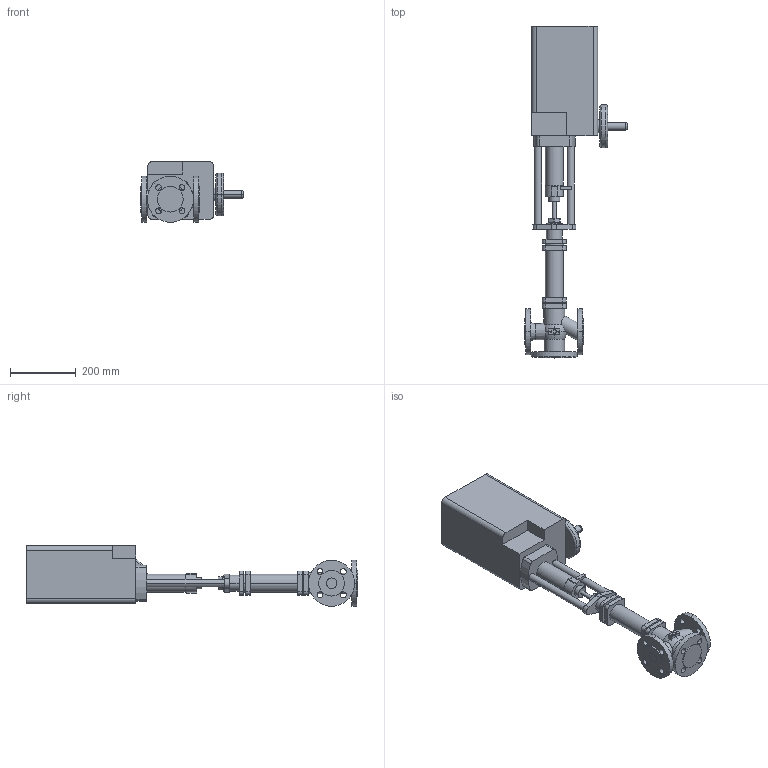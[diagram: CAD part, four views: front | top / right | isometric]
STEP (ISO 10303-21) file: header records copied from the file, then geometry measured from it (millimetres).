
FILE_DESCRIPTION(('OneSpaceDesigner STEP Export'),'2;1');
FILE_NAME('c000002453.stp','2006-09-21T11:51:50',(''),(''),'OneSpace Designer STEP processor for AP214 (Solid Model)','OneSpace Designer 13.20A 18-Aug-2005 (C) CoCreate Software GmbH','');
FILE_SCHEMA(('AUTOMOTIVE_DESIGN { 1 0 10303 214 1 1 1 1 }'));
Length unit declared in the file: millimetre
Products named in the file (2): 1; 2
Bounding box: 311.6 x 1008.5 x 184 mm (x, y, z)
Volume: 14758055.6 mm3; surface area: 662985.6 mm2
Topology: 2 solids, 2 shells, 238 faces, 590 edges, 390 vertices
Faces by surface type: cylinder 112, plane 109, torus 13, cone 4
Entity records: 6708 total; most frequent: CARTESIAN_POINT 1294, ORIENTED_EDGE 1180, DIRECTION 1031, EDGE_CURVE 590, VERTEX_POINT 390, AXIS2_PLACEMENT_3D 365, VECTOR 301, LINE 301
